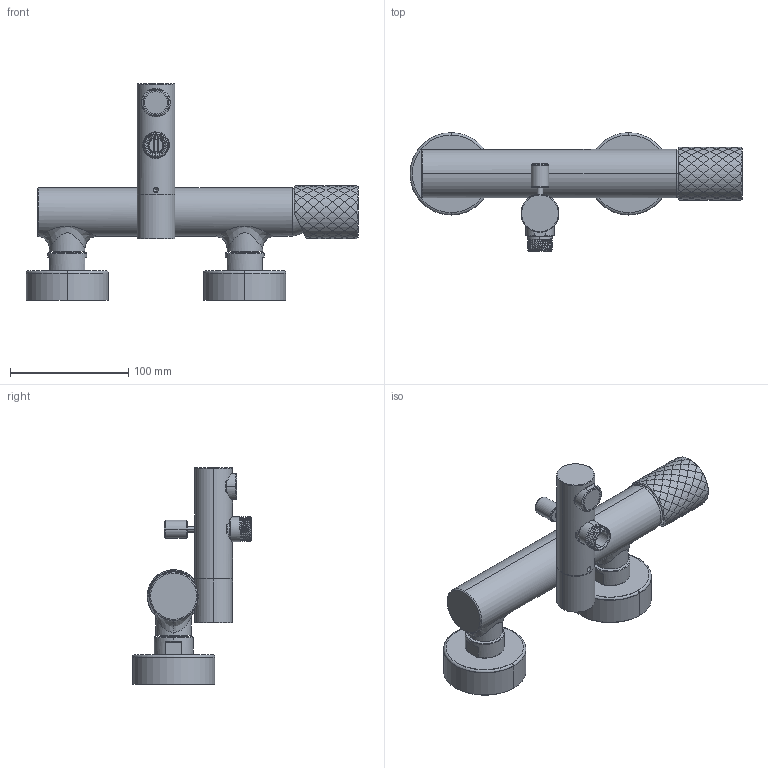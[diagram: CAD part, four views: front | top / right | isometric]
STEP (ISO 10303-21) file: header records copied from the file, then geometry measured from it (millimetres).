
FILE_DESCRIPTION((''),'2;1');
FILE_NAME('F3034_1X_FILE_3D','2019-02-20T',('ivanv'),(''),'CREO PARAMETRIC BY PTC INC, 2016260','CREO PARAMETRIC BY PTC INC, 2016260','');
FILE_SCHEMA(('CONFIG_CONTROL_DESIGN'));
Length unit declared in the file: millimetre
Products named in the file (1): F3034_1X_FILE_3D
Bounding box: 280.35 x 100.4 x 183 mm (x, y, z)
Volume: 255222.5 mm3; surface area: 169291.8 mm2
Topology: 4 solids, 5 shells, 1239 faces, 3248 edges, 2078 vertices
Faces by surface type: plane 490, cylinder 457, cone 151, torus 85, bspline 54, sphere 2
Entity records: 73709 total; most frequent: CARTESIAN_POINT 44535, ORIENTED_EDGE 6476, DIRECTION 5472, EDGE_CURVE 3238, VERTEX_POINT 2078, AXIS2_PLACEMENT_3D 2014, VECTOR 1444, LINE 1444
